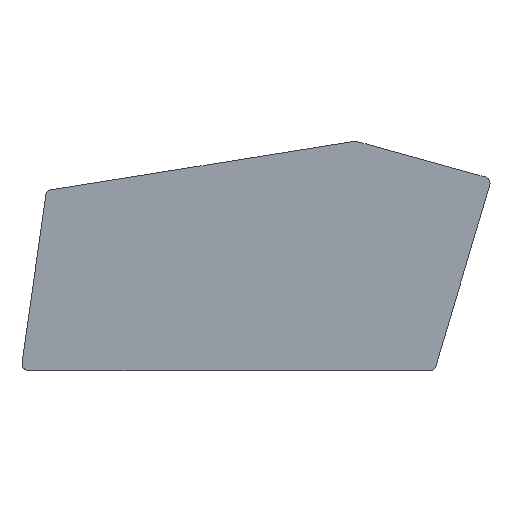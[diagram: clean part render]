
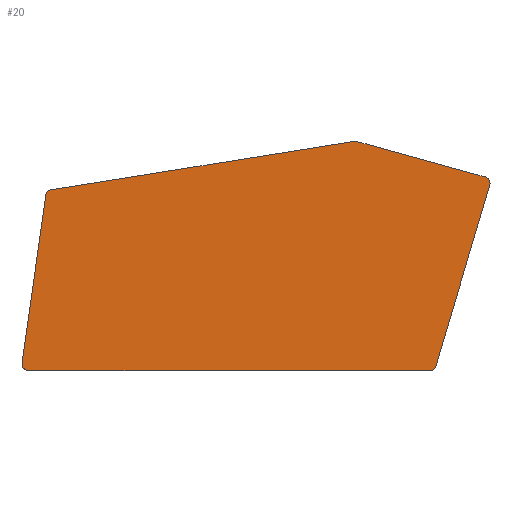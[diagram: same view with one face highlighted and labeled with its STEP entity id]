
A CAD part, top view. The second image highlights one B-rep face of the part: STEP entity #20.
In plain terms, the highlighted planar face has unit normal (0, 0, 1).
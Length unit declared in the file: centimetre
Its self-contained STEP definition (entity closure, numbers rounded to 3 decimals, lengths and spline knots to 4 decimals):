
#20=ADVANCED_FACE($,(#38),#217,.T.);
#38=FACE_OUTER_BOUND($,#56,.T.);
#56=EDGE_LOOP($,(#78,#79));
#78=ORIENTED_EDGE($,*,*,#146,.T.);
#79=ORIENTED_EDGE($,*,*,#149,.T.);
#146=EDGE_CURVE($,#181,#183,#225,.T.);
#149=EDGE_CURVE($,#183,#181,#227,.T.);
#181=VERTEX_POINT($,#475);
#183=VERTEX_POINT($,#477);
#217=PLANE($,#347);
#225=(
BOUNDED_CURVE()
B_SPLINE_CURVE(2,(#381,#382,#383,#384,#385,#386,#387,#388,#389,#390,#391,
#392,#393,#394,#395),.UNSPECIFIED.,.F.,.F.)
B_SPLINE_CURVE_WITH_KNOTS((3,2,2,2,2,2,2,3),(1764.5229,1790.1494,
2353.6382,2369.5389,2385.4397,2782.3814,2790.9521,
3708.7258),.UNSPECIFIED.)
CURVE()
GEOMETRIC_REPRESENTATION_ITEM()
RATIONAL_B_SPLINE_CURVE((1.,0.802,1.,1.,1.,0.922,
1.,0.922,1.,1.,1.,0.977,1.,1.,1.))
REPRESENTATION_ITEM($)
);
#227=(
BOUNDED_CURVE()
B_SPLINE_CURVE(2,(#409,#410,#411,#412,#413,#414,#415,#416,#417,#418,#419),
.UNSPECIFIED.,.F.,.F.)
B_SPLINE_CURVE_WITH_KNOTS((3,2,2,2,2,3),(3708.7258,3734.1749,
4240.4034,4257.5113,4274.6193,5473.2487),.UNSPECIFIED.)
CURVE()
GEOMETRIC_REPRESENTATION_ITEM()
RATIONAL_B_SPLINE_CURVE((1.,0.804,1.,1.,1.,0.91,
1.,0.91,1.,1.,1.))
REPRESENTATION_ITEM($)
);
#347=AXIS2_PLACEMENT_3D($,#443,#356,$);
#356=DIRECTION($,(0.,0.,1.));
#381=CARTESIAN_POINT($,(122.7497,0.6755,41.7));
#382=CARTESIAN_POINT($,(124.2409,0.6755,41.7));
#383=CARTESIAN_POINT($,(124.6665,2.1046,41.7));
#384=CARTESIAN_POINT($,(132.7087,29.1069,41.7));
#385=CARTESIAN_POINT($,(140.7509,56.1092,41.7));
#386=CARTESIAN_POINT($,(140.9906,56.914,41.7));
#387=CARTESIAN_POINT($,(140.5839,57.6487,41.7));
#388=CARTESIAN_POINT($,(140.1772,58.3834,41.7));
#389=CARTESIAN_POINT($,(139.3679,58.6075,41.7));
#390=CARTESIAN_POINT($,(120.2409,63.9049,41.7));
#391=CARTESIAN_POINT($,(101.1138,69.2024,41.7));
#392=CARTESIAN_POINT($,(100.6944,69.3185,41.7));
#393=CARTESIAN_POINT($,(100.2646,69.2499,41.7));
#394=CARTESIAN_POINT($,(54.95,62.014,41.7));
#395=CARTESIAN_POINT($,(9.6354,54.7781,41.7));
#409=CARTESIAN_POINT($,(9.6354,54.7781,41.7));
#410=CARTESIAN_POINT($,(8.1765,54.5451,41.7));
#411=CARTESIAN_POINT($,(7.9704,53.0822,41.7));
#412=CARTESIAN_POINT($,(4.4384,28.0184,41.7));
#413=CARTESIAN_POINT($,(0.9064,2.9546,41.7));
#414=CARTESIAN_POINT($,(0.7791,2.0519,41.7));
#415=CARTESIAN_POINT($,(1.3771,1.3637,41.7));
#416=CARTESIAN_POINT($,(1.9751,0.6755,41.7));
#417=CARTESIAN_POINT($,(2.8868,0.6755,41.7));
#418=CARTESIAN_POINT($,(62.8183,0.6755,41.7));
#419=CARTESIAN_POINT($,(122.7497,0.6755,41.7));
#443=CARTESIAN_POINT($,(0.7791,0.6755,41.7));
#475=CARTESIAN_POINT($,(122.7497,0.6755,41.7));
#477=CARTESIAN_POINT($,(9.6354,54.7781,41.7));
